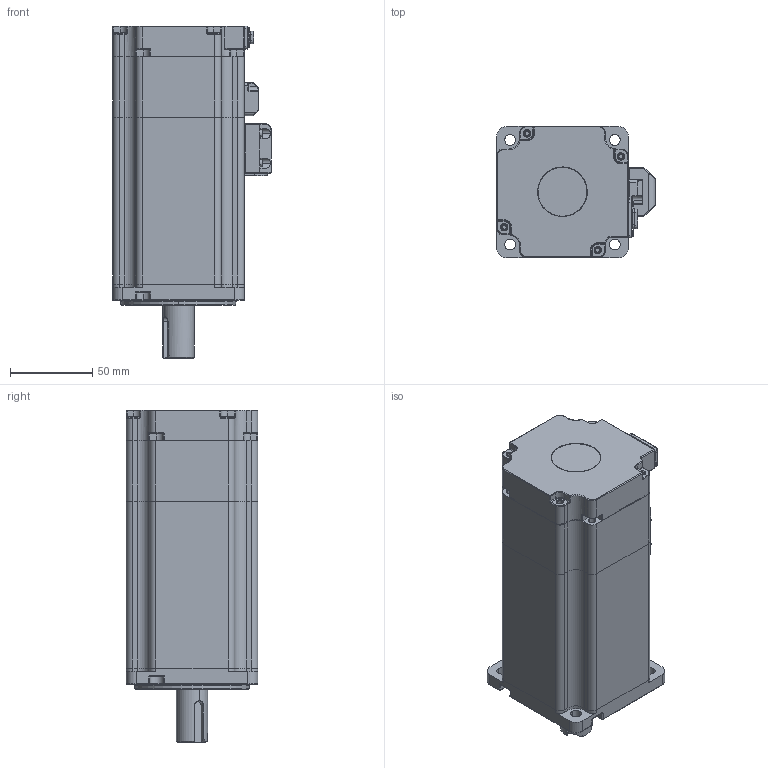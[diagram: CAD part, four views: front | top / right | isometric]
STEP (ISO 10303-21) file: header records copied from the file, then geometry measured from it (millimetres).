
FILE_DESCRIPTION (( 'STEP AP214' ), '1' );
FILE_NAME ('1200W低压电机 带刹车（插座式）.STEP', '2023-07-03T02:17:53', ( '' ), ( '' ), 'SwSTEP 2.0', 'SolidWorks 2014', '' );
FILE_SCHEMA (( 'AUTOMOTIVE_DESIGN' ));
Length unit declared in the file: millimetre
Products named in the file (15): 1200W低压电机 带刹车（插座式）; 80#陔粣-1200W-价陬粣 - 腴揤_1; 40#价陬堤盄揤盄裔; 前轴承 GB／T276-94深沟球轴承6004-2Z_1; GB_CROSS_SCREWS_TYPE3 M2.5X12-12-C_GB_CROSS_SCREWS_TYPE3 M2.5X12-12-C_1; SC40陔晤鎢ん瑤脣釱sc-mc7p-a6-zhichuxianchazuo; 低压电机动力压线盖_1; 揤盄裔躇猾菜-11.4; 80#陔晤鎢ん欶; 80#陔綴傷裔-价陬遴; 80-晤鎢ん欶; 蚐猾 D00B999YF5-TC 20-30-5-1; 80#陔ヶ傷裔 - 萵掛_1; 1200w儂褲-辿盄宒_1_1; 后轴承 GB／T276-94深沟球轴承6002-2Z_1
Assembly tree (17 placements, depth 3):
  1200W低压电机 带刹车（插座式）
    1200w儂褲-辿盄宒_1_1
    低压电机动力压线盖_1
    GB_CROSS_SCREWS_TYPE3 M2.5X12-12-C_GB_CROSS_SCREWS_TYPE3 M2.5X12-12-C_1  x4
    80#陔ヶ傷裔 - 萵掛_1
    后轴承 GB／T276-94深沟球轴承6002-2Z_1
    前轴承 GB／T276-94深沟球轴承6004-2Z_1
    揤盄裔躇猾菜-11.4
    80#陔綴傷裔-价陬遴
    80#陔粣-1200W-价陬粣 - 腴揤_1
    40#价陬堤盄揤盄裔
    蚐猾 D00B999YF5-TC 20-30-5-1
    80-晤鎢ん欶
      80#陔晤鎢ん欶
      SC40陔晤鎢ん瑤脣釱sc-mc7p-a6-zhichuxianchazuo
Bounding box: 96.5 x 80 x 202 mm (x, y, z)
Volume: 313506.3 mm3; surface area: 177114.6 mm2
Topology: 24 solids, 26 shells, 3377 faces, 8682 edges, 5262 vertices
Faces by surface type: cylinder 1220, plane 1187, bspline 297, torus 260, sphere 254, cone 159
Entity records: 156535 total; most frequent: CARTESIAN_POINT 43470, ORIENTED_EDGE 16608, DIRECTION 15987, EDGE_CURVE 8306, AXIS2_PLACEMENT_3D 5993, VERTEX_POINT 5099, VECTOR 4001, LINE 4001
